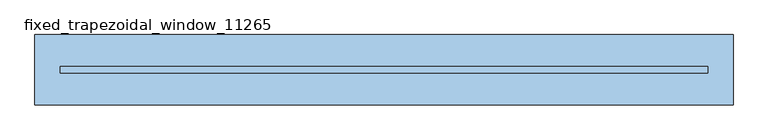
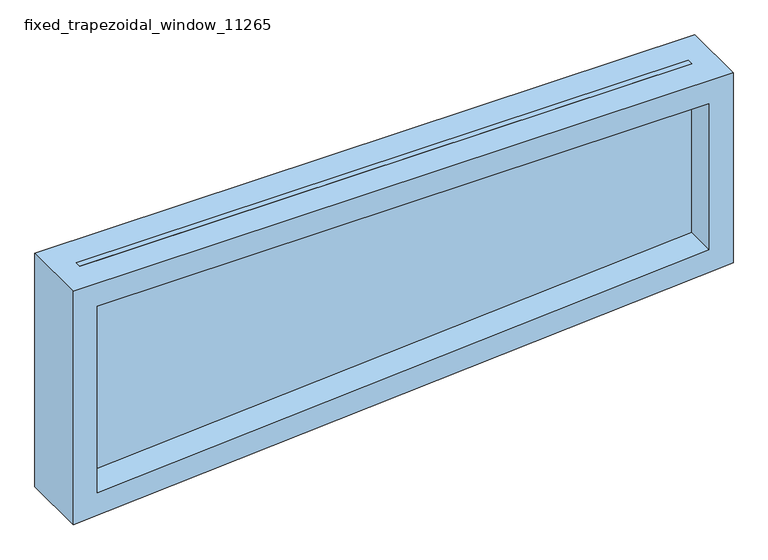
"""IFC4 building model written with IfcOpenShell, lengths in millimetres: window geometry, fixed_trapezoidal_window_11265 : Menuiserie 11.2."""

import ifcopenshell
import ifcopenshell.guid

model = None  # the IFC model being written
_history = None  # IfcOwnerHistory: only IFC2X3 demands one
_inside = {}  # id of a spatial element -> (the spatial element, [elements in it])
_under = {}  # id of a project, library or spatial element -> (it, [spatial elements below it])
_declared = {}  # id of a project -> (the project, [libraries it declares])
_typed = {}  # id of a type object -> (the type object, [elements of that type])
_made_of = {}  # id of a material, layer set ... -> (it, [elements and type objects made of it])


def new_model(schema):
    """Start an empty IFC model of exactly this schema.

    Asked for "IFC4X3", IfcOpenShell would pick the latest addendum, in which some entities
    have other attributes; the version numbers below select the first issue.
    IFC2X3 requires an IfcOwnerHistory on every rooted entity: one is made here for all.
    """
    global model, _history
    if schema == "IFC4X3":
        model = ifcopenshell.file(schema_version=(4, 3, 0, 0))
    else:
        model = ifcopenshell.file(schema=schema)
    _inside.clear()
    _under.clear()
    _declared.clear()
    _typed.clear()
    _made_of.clear()
    _history = None
    if model.schema == "IFC2X3":
        org = make("IfcOrganization", Name="unknown")
        user = make(
            "IfcPersonAndOrganization",
            ThePerson=make("IfcPerson", FamilyName="unknown"),
            TheOrganization=org,
        )
        app = make(
            "IfcApplication",
            ApplicationDeveloper=org,
            Version="unknown",
            ApplicationFullName="unknown",
            ApplicationIdentifier="unknown",
        )
        _history = make(
            "IfcOwnerHistory",
            OwningUser=user,
            OwningApplication=app,
            ChangeAction="ADDED",
            CreationDate=0,
        )
    return model


def make(cls, **values):
    """One entity of the class cls with the attributes given. An attribute that is None is left unset."""
    return model.create_entity(
        cls, **{name: value for name, value in values.items() if value is not None}
    )


def rooted(cls, **values):
    """An entity with a GlobalId (a new one), such as an element, a storey or a relation."""
    return make(cls, GlobalId=ifcopenshell.guid.new(), OwnerHistory=_history, **values)


def si_unit(unit_type, name, prefix=None):
    """IfcSIUnit, for example si_unit("LENGTHUNIT", "METRE", prefix="MILLI")."""
    return make("IfcSIUnit", UnitType=unit_type, Prefix=prefix, Name=name)


def assignment(units):
    """IfcUnitAssignment: the units of a project."""
    return None if units is None else make("IfcUnitAssignment", Units=units)


def point(xyz):
    """IfcCartesianPoint."""
    return None if xyz is None else make("IfcCartesianPoint", Coordinates=xyz)


def direction(xyz):
    """IfcDirection."""
    return None if xyz is None else make("IfcDirection", DirectionRatios=xyz)


def frame(location, z_axis=None, x_axis=None):
    """IfcAxis2Placement3D, a coordinate frame: its origin and axes. An axis left out is left unset."""
    return make(
        "IfcAxis2Placement3D",
        Location=point(location),
        Axis=direction(z_axis),
        RefDirection=direction(x_axis),
    )


def origin():
    """The frame at (0, 0, 0) with its axes left unset."""
    return frame((0.0, 0.0, 0.0))


def place(relative_to, where):
    """IfcLocalPlacement: puts the frame where relative to a parent placement (None: the world)."""
    return make(
        "IfcLocalPlacement", PlacementRelTo=relative_to, RelativePlacement=where
    )


def context(
    kind, dimensions, precision=None, world=None, true_north=None, identifier=None
):
    """IfcGeometricRepresentationContext, for example the 3D "Model" context."""
    return make(
        "IfcGeometricRepresentationContext",
        ContextIdentifier=identifier,
        ContextType=kind,
        CoordinateSpaceDimension=dimensions,
        Precision=precision,
        WorldCoordinateSystem=world,
        TrueNorth=true_north,
    )


def project(units=None, contexts=None):
    """IfcProject with its units and contexts."""
    return rooted(
        "IfcProject",
        Name="project",
        RepresentationContexts=contexts,
        UnitsInContext=assignment(units),
    )


def spatial(cls, under=None, at=None, **own):
    """A site, building, storey or space (cls), placed at a placement, below another one or the project."""
    s = rooted(cls, ObjectPlacement=at, **own)
    if under is not None:
        _under.setdefault(under.id(), (under, []))[1].append(s)
    return s


def polyline(points):
    """IfcPolyline through the points."""
    return make("IfcPolyline", Points=[point(p) for p in points])


def outline(outer, holes=None, kind="AREA"):
    """IfcArbitraryClosedProfileDef: a profile drawn as a closed curve; with holes, ...WithVoids."""
    if holes is None:
        return make("IfcArbitraryClosedProfileDef", ProfileType=kind, OuterCurve=outer)
    return make(
        "IfcArbitraryProfileDefWithVoids",
        ProfileType=kind,
        OuterCurve=outer,
        InnerCurves=holes,
    )


def extrude(swept, where, along, depth):
    """IfcExtrudedAreaSolid: the profile swept, set in the frame where, extruded along a direction by depth."""
    return make(
        "IfcExtrudedAreaSolid",
        SweptArea=swept,
        Position=where,
        ExtrudedDirection=direction(along),
        Depth=depth,
    )


def shape(context_of_items, identifier, shape_type, items):
    """IfcShapeRepresentation: the items that make up one representation, for example the "Body"."""
    return make(
        "IfcShapeRepresentation",
        ContextOfItems=context_of_items,
        RepresentationIdentifier=identifier,
        RepresentationType=shape_type,
        Items=items,
    )


def source(mapping_origin, context_of_items, identifier, shape_type, items):
    """IfcRepresentationMap: a shape defined once, which mapped items show again and again."""
    return make(
        "IfcRepresentationMap",
        MappingOrigin=mapping_origin,
        MappedRepresentation=shape(context_of_items, identifier, shape_type, items),
    )


def transform(
    local_origin,
    x_axis=None,
    y_axis=None,
    z_axis=None,
    scale=None,
    scale2=None,
    scale3=None,
    uniform=True,
):
    """IfcCartesianTransformationOperator3D, or its non-uniform kind. x_axis, y_axis, z_axis: its Axis1, 2, 3."""
    if uniform:
        return make(
            "IfcCartesianTransformationOperator3D",
            Axis1=direction(x_axis),
            Axis2=direction(y_axis),
            LocalOrigin=point(local_origin),
            Scale=scale,
            Axis3=direction(z_axis),
        )
    return make(
        "IfcCartesianTransformationOperator3DnonUniform",
        Axis1=direction(x_axis),
        Axis2=direction(y_axis),
        LocalOrigin=point(local_origin),
        Scale=scale,
        Axis3=direction(z_axis),
        Scale2=scale2,
        Scale3=scale3,
    )


def mapped(mapping_source, mapping_target):
    """IfcMappedItem: shows the shape of a source again, moved by a transform."""
    return make(
        "IfcMappedItem", MappingSource=mapping_source, MappingTarget=mapping_target
    )


def made_of(thing, what):
    """Note that an element or type object is made of a material, layer set ...; save() writes the relation."""
    if what is not None:
        _made_of.setdefault(what.id(), (what, []))[1].append(thing)
    return thing


def element(
    cls,
    number,
    at=None,
    inside=None,
    cuts=None,
    type_object=None,
    material=None,
    context=None,
    identifier="Body",
    shape_type=None,
    held_by="IfcProductDefinitionShape",
    body=None,
    shapes=None,
    **own,
):
    """One element of the class cls, such as IfcWall. Its Tag is "e" and its number.

    at: its placement. inside: the storey or other place that contains it. cuts: it is an
    opening in that element (IfcRelVoidsElement). A single representation is given by context,
    identifier, shape_type and body (its items); several are given by shapes. held_by: the class
    of the entity that holds the representations. save() writes the other relations.
    """
    e = rooted(cls, Tag="e%d" % number, ObjectPlacement=at, **own)
    if body is not None:
        shapes = [shape(context, identifier, shape_type, body)]
    if shapes is not None:
        e.Representation = make(held_by, Representations=shapes)
    if inside is not None:
        _inside.setdefault(inside.id(), (inside, []))[1].append(e)
    if cuts is not None:
        rooted(
            "IfcRelVoidsElement", RelatingBuildingElement=cuts, RelatedOpeningElement=e
        )
    if type_object is not None:
        _typed.setdefault(type_object.id(), (type_object, []))[1].append(e)
    return made_of(e, material)


def aggregate(whole, parts):
    """IfcRelAggregates: a whole, such as a stair, and the parts it consists of."""
    return rooted("IfcRelAggregates", RelatingObject=whole, RelatedObjects=parts)


def save(model, path):
    """Write the relations noted so far, then the file.

    IfcRelAggregates (storeys below a building ...), IfcRelContainedInSpatialStructure (elements
    in a storey), IfcRelDefinesByType, IfcRelAssociatesMaterial and IfcRelDeclares: one each for
    every whole, place, type object, material and project.
    """
    for whole, parts in _under.values():
        aggregate(whole, parts)
    for where, things in _inside.values():
        rooted(
            "IfcRelContainedInSpatialStructure",
            RelatedElements=things,
            RelatingStructure=where,
        )
    for kind, things in _typed.values():
        rooted("IfcRelDefinesByType", RelatedObjects=things, RelatingType=kind)
    for what, things in _made_of.values():
        rooted("IfcRelAssociatesMaterial", RelatedObjects=things, RelatingMaterial=what)
    for by, libraries in _declared.values():
        rooted("IfcRelDeclares", RelatingContext=by, RelatedDefinitions=libraries)
    model.write(path)


def fixed_trapezoidal_window_11265_56658304(model_context):
    return source(origin(), model_context, "Body", "SweptSolid", [
        extrude(outline(polyline([(1739.2, -682.3), (1273.6763305, -682.3), (1363.770035, 606.1), (1739.2, 606.1), (1739.2, -682.3)])), frame((0.0, -6.35, 0.0), z_axis=(0.0, 1.0, 0.0), x_axis=(0.0, 0.0, 1.0)), (0.0, 0.0, 1.0), 12.7),
        extrude(outline(polyline([(1739.2, 656.9), (1739.2, -733.1), (1219.2, -733.1), (1316.3982686, 656.9), (1739.2, 656.9)]), holes=[polyline([(1688.4, 606.1), (1363.770035, 606.1), (1273.6763305, -682.3), (1688.4, -682.3), (1688.4, 606.1)])]), frame((0.0, -69.85, 0.0), z_axis=(0.0, 1.0, 0.0), x_axis=(0.0, 0.0, 1.0)), (0.0, 0.0, 1.0), 139.7),
    ])


if __name__ == "__main__":
    model = new_model("IFC4")
    model_context = context("Model", 3, world=origin())
    ifc_project = project(units=[si_unit("LENGTHUNIT", "METRE", prefix="MILLI")], contexts=[model_context])
    site = spatial("IfcSite", under=ifc_project)
    building = spatial("IfcBuilding", under=site)
    placement = place(None, origin())
    fixed_trapezoidal_window_11265_shape = fixed_trapezoidal_window_11265_56658304(model_context)
    element("IfcWindow", 1, ObjectType="fixed_trapezoidal_window_11265 : Menuiserie 11.2", at=placement, inside=building, context=model_context, shape_type="MappedRepresentation", body=[
        mapped(fixed_trapezoidal_window_11265_shape, transform((0.0, 0.0, 0.0), x_axis=(1.0, 0.0, 0.0), y_axis=(0.0, 1.0, 0.0), z_axis=(0.0, 0.0, 1.0))),
    ])
    save(model, "model.ifc")
